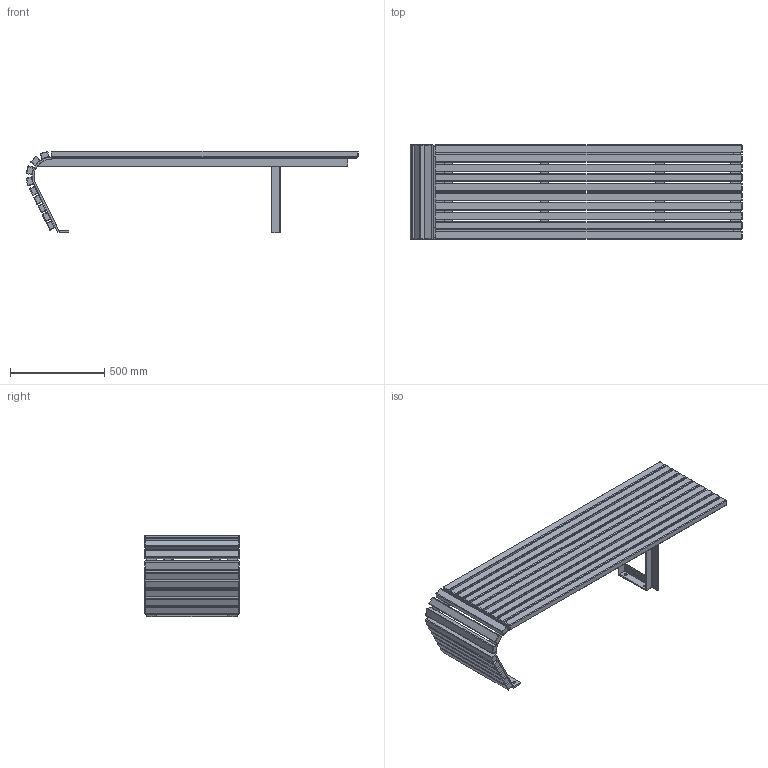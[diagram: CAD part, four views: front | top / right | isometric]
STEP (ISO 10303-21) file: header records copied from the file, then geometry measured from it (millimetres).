
FILE_DESCRIPTION(/* description */ (''),/* implementation_level */ '2;1');
FILE_NAME(/* name */ 'ENV02-F2_UAP_ENVIRON_Bench_3D',/* time_stamp */ '2018-01-23T21:17:36-05:00',/* author */ (''),/* organization */ (''),/* preprocessor_version */ 'ST-DEVELOPER v15',/* originating_system */ '',/* authorisation */ '');
FILE_SCHEMA (('AUTOMOTIVE_DESIGN'));
Length unit declared in the file: millimetre
Products named in the file (1): Document
Bounding box: 1762.79 x 501 x 433 mm (x, y, z)
Volume: 29370819.7 mm3; surface area: 4297468.5 mm2
Topology: 29 solids, 36 shells, 980 faces, 2260 edges, 1164 vertices
Faces by surface type: bspline 774, plane 206
Entity records: 30004 total; most frequent: CARTESIAN_POINT 17886, ORIENTED_EDGE 4040, EDGE_CURVE 2044, VERTEX_POINT 1164, EDGE_LOOP 1130, ADVANCED_FACE 980, FACE_OUTER_BOUND 980, B_SPLINE_CURVE_WITH_KNOTS 575
